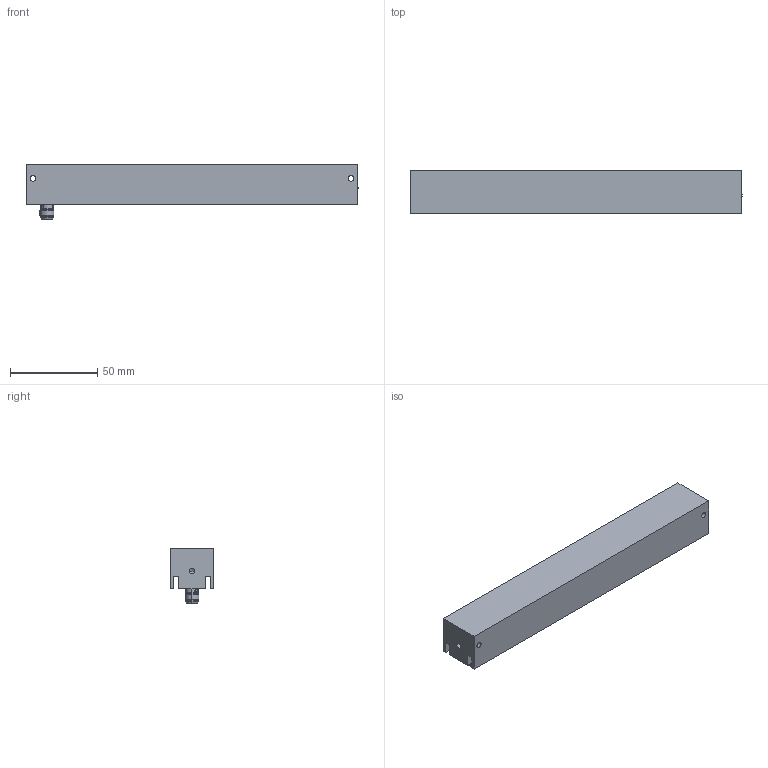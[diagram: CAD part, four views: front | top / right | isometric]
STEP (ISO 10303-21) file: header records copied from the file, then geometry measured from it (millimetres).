
FILE_DESCRIPTION(('STEP AP214'),'1');
FILE_NAME('Z:/Projekte Hr. Wünsch/SpaceClaim/TOP-HI-LINE-D/LINE-D3-NEU/HI-LINE-D3-Kundendatei.stp','2014-06-23T07:34:15',(' '),(' '),'Spatial InterOp 3D',' ',' ');
FILE_SCHEMA(('automotive_design'));
Length unit declared in the file: millimetre
Products named in the file (2): HI-LINE-D3-Kundendatei; M8-Einbaustecker
Assembly tree (1 placements, depth 2):
  HI-LINE-D3-Kundendatei
    M8-Einbaustecker
Bounding box: 190 x 25 x 31.4 mm (x, y, z)
Volume: 70973.6 mm3; surface area: 39876.8 mm2
Topology: 1 solids, 8 shells, 240 faces, 593 edges, 365 vertices
Faces by surface type: cylinder 126, plane 64, cone 34, bspline 8, sphere 4, torus 4
Entity records: 9817 total; most frequent: CARTESIAN_POINT 2266, DIRECTION 1221, ORIENTED_EDGE 1122, EDGE_CURVE 561, AXIS2_PLACEMENT_3D 502, VERTEX_POINT 365, EDGE_LOOP 272, CIRCLE 265
